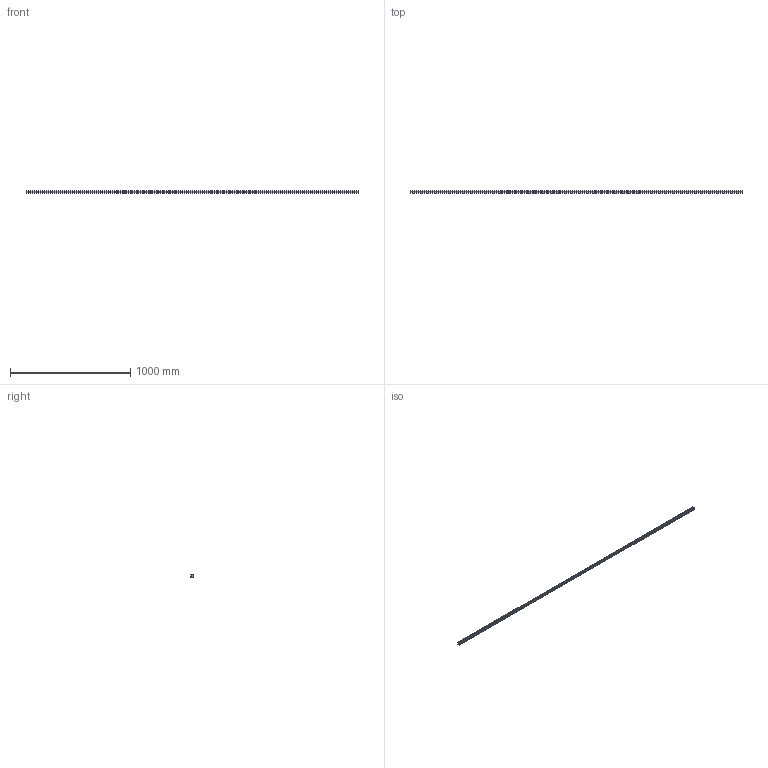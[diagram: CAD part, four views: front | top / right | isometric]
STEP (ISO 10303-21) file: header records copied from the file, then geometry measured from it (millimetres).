
FILE_DESCRIPTION (( 'STEP AP203' ), '1' );
FILE_NAME ('L1018.20R-2760.step', '2023-08-06T09:14:13', ( '' ), ( '' ), 'SwSTEP 2.0', 'SolidWorks 2019', '' );
FILE_SCHEMA (( 'CONFIG_CONTROL_DESIGN' ));
Length unit declared in the file: millimetre
Products named in the file (1): L1018.20R-2760
Bounding box: 2760 x 19.3 x 20 mm (x, y, z)
Volume: 875274 mm3; surface area: 233571.4 mm2
Topology: 1 solids, 1 shells, 443 faces, 1001 edges, 560 vertices
Faces by surface type: cylinder 187, cone 184, plane 72
Entity records: 11762 total; most frequent: DIRECTION 2263, CARTESIAN_POINT 1913, ORIENTED_EDGE 1818, AXIS2_PLACEMENT_3D 910, EDGE_CURVE 909, VERTEX_POINT 560, EDGE_LOOP 535, CIRCLE 466
